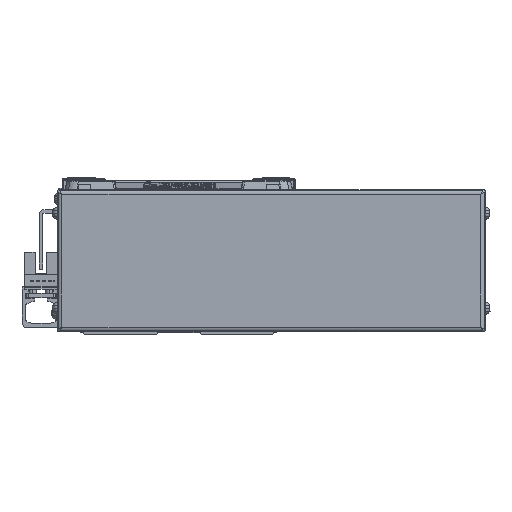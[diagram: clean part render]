
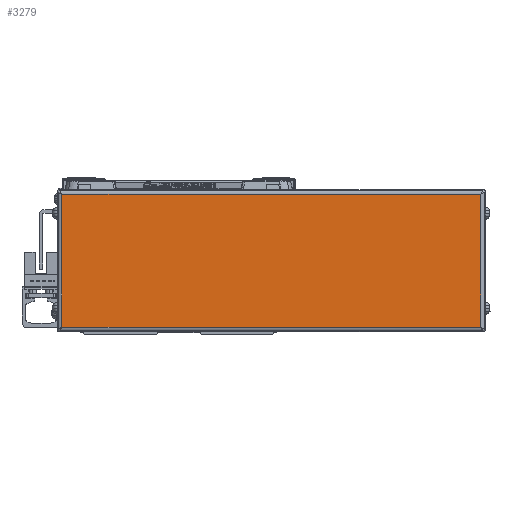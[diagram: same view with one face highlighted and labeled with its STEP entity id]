
A CAD part, left-side view. The second image highlights one B-rep face of the part: STEP entity #3279.
In plain terms, the highlighted planar face has unit normal (-1, 0, 0).
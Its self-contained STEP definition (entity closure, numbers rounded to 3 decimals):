
#3279=ADVANCED_FACE('',(#8465),#8466,.T.);
#8465=FACE_OUTER_BOUND('',#16181,.T.);
#8466=PLANE('',#16182);
#16181=EDGE_LOOP('',(#25443,#25444,#25445,#25446));
#16182=AXIS2_PLACEMENT_3D('',#25447,#25448,#25449);
#25443=ORIENTED_EDGE('',*,*,#46320,.F.);
#25444=ORIENTED_EDGE('',*,*,#46321,.F.);
#25445=ORIENTED_EDGE('',*,*,#46322,.F.);
#25446=ORIENTED_EDGE('',*,*,#46323,.F.);
#25447=CARTESIAN_POINT('',(-616.,-39.,0.));
#25448=DIRECTION('',(-1.0,0.,0.));
#25449=DIRECTION('',(0.,0.,1.0));
#46320=EDGE_CURVE('',#55698,#55699,#55700,.T.);
#46321=EDGE_CURVE('',#55701,#55698,#55702,.T.);
#46322=EDGE_CURVE('',#55703,#55701,#55704,.T.);
#46323=EDGE_CURVE('',#55699,#55703,#55705,.T.);
#55698=VERTEX_POINT('',#68837);
#55699=VERTEX_POINT('',#68838);
#55700=LINE('',#68839,#68840);
#55701=VERTEX_POINT('',#68841);
#55702=LINE('',#68842,#68843);
#55703=VERTEX_POINT('',#68844);
#55704=LINE('',#68845,#68846);
#55705=LINE('',#68847,#68848);
#68837=CARTESIAN_POINT('',(-616.,49.2,28.));
#68838=CARTESIAN_POINT('',(-616.,-127.2,28.));
#68839=CARTESIAN_POINT('',(-616.,-39.,28.));
#68840=VECTOR('',#84712,10.0);
#68841=CARTESIAN_POINT('',(-616.0,49.2,-28.));
#68842=CARTESIAN_POINT('',(-616.0,49.2,0.));
#68843=VECTOR('',#84713,10.0);
#68844=CARTESIAN_POINT('',(-616.,-127.2,-28.));
#68845=CARTESIAN_POINT('',(-616.,-39.,-28.));
#68846=VECTOR('',#84714,10.0);
#68847=CARTESIAN_POINT('',(-616.,-127.2,0.));
#68848=VECTOR('',#84715,10.0);
#84712=DIRECTION('',(0.,-1.0,0.));
#84713=DIRECTION('',(0.,0.,1.0));
#84714=DIRECTION('',(0.,1.0,0.));
#84715=DIRECTION('',(0.,0.,-1.0));
